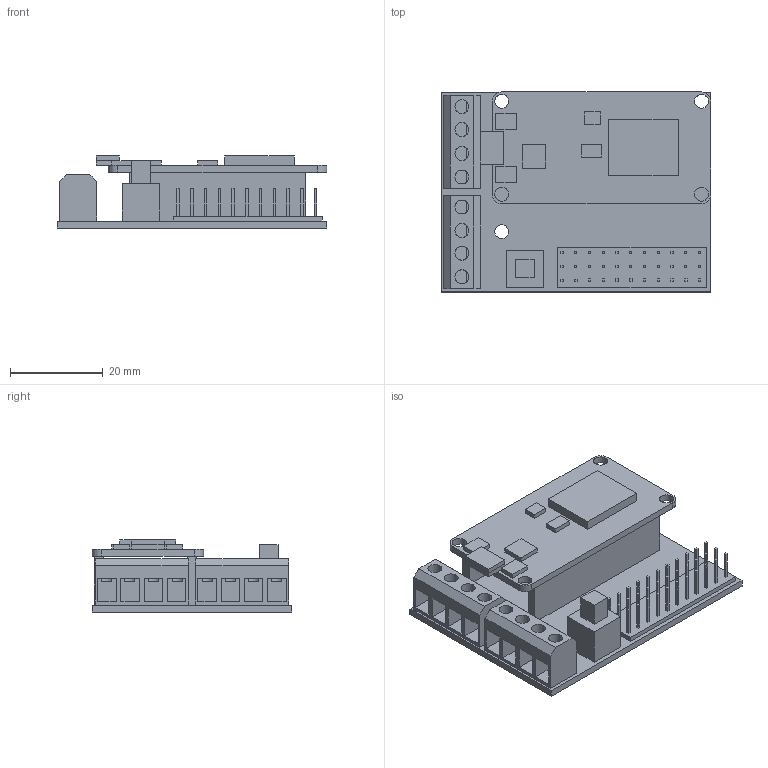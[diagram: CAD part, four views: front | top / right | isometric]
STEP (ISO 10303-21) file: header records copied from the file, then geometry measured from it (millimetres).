
FILE_DESCRIPTION(('FreeCAD Model'),'2;1');
FILE_NAME('Open CASCADE Shape Model','2023-04-10T16:29:11',('Author'),( ''),'Open CASCADE STEP processor 7.5','FreeCAD','Unknown');
FILE_SCHEMA(('AUTOMOTIVE_DESIGN { 1 0 10303 214 1 1 1 1 }'));
Length unit declared in the file: millimetre
Products named in the file (4): ESP8266; ESP8266 node mcu; esp8266 motor shield; esp contacts
Assembly tree (3 placements, depth 2):
  ESP8266
    ESP8266 node mcu
    esp8266 motor shield
    esp contacts
Bounding box: 58 x 43 x 15.5 mm (x, y, z)
Volume: 10506.4 mm3; surface area: 13122.5 mm2
Topology: 3 solids, 3 shells, 358 faces, 948 edges, 674 vertices
Faces by surface type: plane 338, cylinder 20
Full cylindrical faces by diameter (mm): 3 x16
Entity records: 23677 total; most frequent: CARTESIAN_POINT 4120, DIRECTION 3584, LINE 2732, VECTOR 2732, ORIENTED_EDGE 1896, PCURVE 1896, DEFINITIONAL_REPRESENTATION 1896, EDGE_CURVE 948
